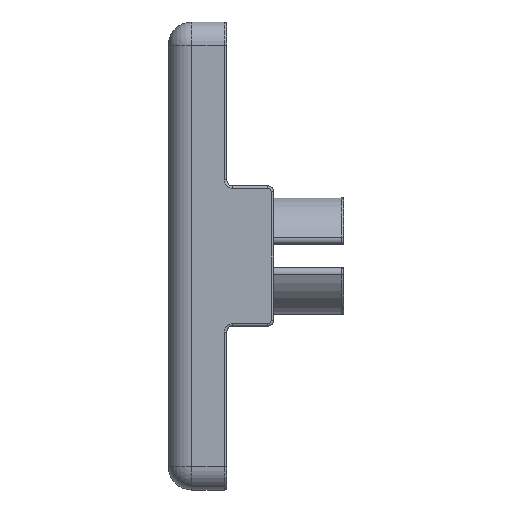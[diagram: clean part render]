
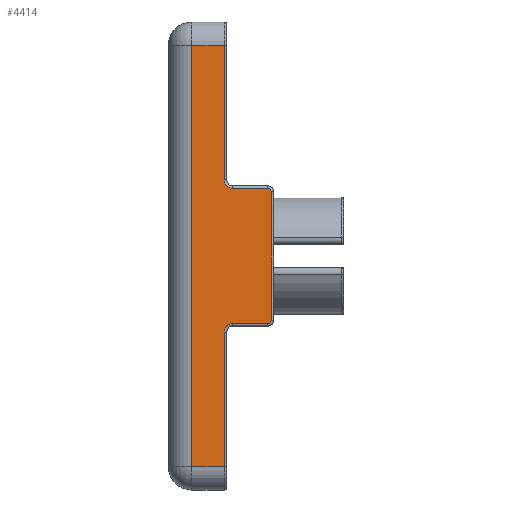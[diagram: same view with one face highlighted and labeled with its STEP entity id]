
A CAD part, left-side view. The second image highlights one B-rep face of the part: STEP entity #4414.
In plain terms, the highlighted planar face has unit normal (-1, 0, 0).
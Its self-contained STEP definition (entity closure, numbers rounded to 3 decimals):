
#19 = CIRCLE ( 'NONE', #3975, 0.35 ) ;
#121 = CARTESIAN_POINT ( 'NONE',  ( -32.618, 0.1, -4.551 ) ) ;
#135 = AXIS2_PLACEMENT_3D ( 'NONE', #2841, #4668, #1117 ) ;
#145 = CARTESIAN_POINT ( 'NONE',  ( -32.618, -1.75, -16.301 ) ) ;
#159 = ORIENTED_EDGE ( 'NONE', *, *, #775, .T. ) ;
#170 = DIRECTION ( 'NONE',  ( -1., 0., 0. ) ) ;
#240 = ORIENTED_EDGE ( 'NONE', *, *, #2016, .T. ) ;
#242 = DIRECTION ( 'NONE',  ( 0., -1., 0. ) ) ;
#271 = CARTESIAN_POINT ( 'NONE',  ( -32.618, -1.9, -22.551 ) ) ;
#361 = CARTESIAN_POINT ( 'NONE',  ( -32.618, 2.5, -4.551 ) ) ;
#373 = ORIENTED_EDGE ( 'NONE', *, *, #3494, .T. ) ;
#411 = AXIS2_PLACEMENT_3D ( 'NONE', #3563, #2861, #634 ) ;
#568 = VECTOR ( 'NONE', #3858, 1000. ) ;
#634 = DIRECTION ( 'NONE',  ( 0., 0., -1. ) ) ;
#667 = DIRECTION ( 'NONE',  ( 0., -1., 0. ) ) ;
#683 = LINE ( 'NONE', #3492, #568 ) ;
#697 = ORIENTED_EDGE ( 'NONE', *, *, #1694, .T. ) ;
#775 = EDGE_CURVE ( 'NONE', #1434, #3956, #3796, .T. ) ;
#928 = VERTEX_POINT ( 'NONE', #1730 ) ;
#965 = ORIENTED_EDGE ( 'NONE', *, *, #1489, .T. ) ;
#1021 = AXIS2_PLACEMENT_3D ( 'NONE', #3240, #1027, #3605 ) ;
#1027 = DIRECTION ( 'NONE',  ( 1., 0., 0. ) ) ;
#1048 = ORIENTED_EDGE ( 'NONE', *, *, #1584, .T. ) ;
#1055 = VERTEX_POINT ( 'NONE', #4652 ) ;
#1067 = DIRECTION ( 'NONE',  ( 1., 0., 0. ) ) ;
#1101 = LINE ( 'NONE', #2175, #4026 ) ;
#1117 = DIRECTION ( 'NONE',  ( 0., 0., -1. ) ) ;
#1133 = CARTESIAN_POINT ( 'NONE',  ( -32.618, -1.75, -16.451 ) ) ;
#1333 = VERTEX_POINT ( 'NONE', #121 ) ;
#1404 = LINE ( 'NONE', #271, #4196 ) ;
#1434 = VERTEX_POINT ( 'NONE', #1133 ) ;
#1471 = CARTESIAN_POINT ( 'NONE',  ( -32.618, -1.9, -10.801 ) ) ;
#1489 = EDGE_CURVE ( 'NONE', #4653, #1506, #4149, .T. ) ;
#1506 = VERTEX_POINT ( 'NONE', #1964 ) ;
#1584 = EDGE_CURVE ( 'NONE', #4540, #2309, #3585, .T. ) ;
#1585 = ORIENTED_EDGE ( 'NONE', *, *, #2046, .T. ) ;
#1616 = EDGE_CURVE ( 'NONE', #1055, #1434, #1638, .T. ) ;
#1638 = LINE ( 'NONE', #3711, #2507 ) ;
#1694 = EDGE_CURVE ( 'NONE', #3956, #4540, #1404, .T. ) ;
#1700 = EDGE_LOOP ( 'NONE', ( #1984, #1585, #240, #3236, #159, #697, #1048, #4721, #373, #3810, #4744, #965 ) ) ;
#1730 = CARTESIAN_POINT ( 'NONE',  ( -32.618, 0.1, -16.801 ) ) ;
#1741 = VECTOR ( 'NONE', #1901, 1000. ) ;
#1901 = DIRECTION ( 'NONE',  ( 0., 1., 0. ) ) ;
#1964 = CARTESIAN_POINT ( 'NONE',  ( -32.618, 1.5, -22.551 ) ) ;
#1977 = VECTOR ( 'NONE', #2947, 1000. ) ;
#1984 = ORIENTED_EDGE ( 'NONE', *, *, #1988, .T. ) ;
#1988 = EDGE_CURVE ( 'NONE', #1506, #3217, #1101, .T. ) ;
#2016 = EDGE_CURVE ( 'NONE', #928, #1055, #19, .T. ) ;
#2046 = EDGE_CURVE ( 'NONE', #3217, #928, #4651, .T. ) ;
#2113 = EDGE_CURVE ( 'NONE', #2309, #2226, #4538, .T. ) ;
#2175 = CARTESIAN_POINT ( 'NONE',  ( -32.618, 2.5, -22.551 ) ) ;
#2226 = VERTEX_POINT ( 'NONE', #2698 ) ;
#2309 = VERTEX_POINT ( 'NONE', #3821 ) ;
#2486 = PLANE ( 'NONE',  #411 ) ;
#2507 = VECTOR ( 'NONE', #242, 1000. ) ;
#2628 = CARTESIAN_POINT ( 'NONE',  ( -32.618, 2.5, -10.651 ) ) ;
#2652 = DIRECTION ( 'NONE',  ( 0., 0., -1. ) ) ;
#2698 = CARTESIAN_POINT ( 'NONE',  ( -32.618, -0.25, -10.651 ) ) ;
#2705 = DIRECTION ( 'NONE',  ( 0., 0., 1. ) ) ;
#2730 = DIRECTION ( 'NONE',  ( 0., 0., -1. ) ) ;
#2841 = CARTESIAN_POINT ( 'NONE',  ( -32.618, -1.75, -10.801 ) ) ;
#2861 = DIRECTION ( 'NONE',  ( 1., 0., 0. ) ) ;
#2930 = CARTESIAN_POINT ( 'NONE',  ( -32.618, 0.1, -16.801 ) ) ;
#2947 = DIRECTION ( 'NONE',  ( 0., -1., 0. ) ) ;
#2953 = LINE ( 'NONE', #361, #1977 ) ;
#2978 = AXIS2_PLACEMENT_3D ( 'NONE', #145, #170, #2730 ) ;
#3019 = CARTESIAN_POINT ( 'NONE',  ( -32.618, 1.5, -4.551 ) ) ;
#3085 = VECTOR ( 'NONE', #2652, 1000. ) ;
#3217 = VERTEX_POINT ( 'NONE', #4115 ) ;
#3236 = ORIENTED_EDGE ( 'NONE', *, *, #1616, .T. ) ;
#3240 = CARTESIAN_POINT ( 'NONE',  ( -32.618, -0.25, -10.301 ) ) ;
#3277 = CARTESIAN_POINT ( 'NONE',  ( -32.618, -0.25, -16.801 ) ) ;
#3349 = VERTEX_POINT ( 'NONE', #3844 ) ;
#3492 = CARTESIAN_POINT ( 'NONE',  ( -32.618, 0.1, -4.551 ) ) ;
#3494 = EDGE_CURVE ( 'NONE', #2226, #3349, #4241, .T. ) ;
#3563 = CARTESIAN_POINT ( 'NONE',  ( -32.618, 2.5, -22.551 ) ) ;
#3585 = CIRCLE ( 'NONE', #135, 0.15 ) ;
#3591 = EDGE_CURVE ( 'NONE', #4653, #1333, #2953, .T. ) ;
#3605 = DIRECTION ( 'NONE',  ( 0., 0., -1. ) ) ;
#3629 = DIRECTION ( 'NONE',  ( 0., 0., 1. ) ) ;
#3654 = DIRECTION ( 'NONE',  ( 0., 0., -1. ) ) ;
#3695 = VECTOR ( 'NONE', #3629, 1000. ) ;
#3711 = CARTESIAN_POINT ( 'NONE',  ( -32.618, 2.5, -16.451 ) ) ;
#3796 = CIRCLE ( 'NONE', #2978, 0.15 ) ;
#3810 = ORIENTED_EDGE ( 'NONE', *, *, #3889, .T. ) ;
#3821 = CARTESIAN_POINT ( 'NONE',  ( -32.618, -1.75, -10.651 ) ) ;
#3844 = CARTESIAN_POINT ( 'NONE',  ( -32.618, 0.1, -10.301 ) ) ;
#3858 = DIRECTION ( 'NONE',  ( 0., 0., 1. ) ) ;
#3873 = CARTESIAN_POINT ( 'NONE',  ( -32.618, -1.9, -16.301 ) ) ;
#3889 = EDGE_CURVE ( 'NONE', #3349, #1333, #683, .T. ) ;
#3956 = VERTEX_POINT ( 'NONE', #3873 ) ;
#3975 = AXIS2_PLACEMENT_3D ( 'NONE', #3277, #1067, #3654 ) ;
#4026 = VECTOR ( 'NONE', #667, 1000. ) ;
#4115 = CARTESIAN_POINT ( 'NONE',  ( -32.618, 0.1, -22.551 ) ) ;
#4149 = LINE ( 'NONE', #4454, #3085 ) ;
#4196 = VECTOR ( 'NONE', #2705, 1000. ) ;
#4241 = CIRCLE ( 'NONE', #1021, 0.35 ) ;
#4392 = FACE_OUTER_BOUND ( 'NONE', #1700, .T. ) ;
#4414 = ADVANCED_FACE ( 'NONE', ( #4392 ), #2486, .F. ) ;
#4454 = CARTESIAN_POINT ( 'NONE',  ( -32.618, 1.5, -22.551 ) ) ;
#4538 = LINE ( 'NONE', #2628, #1741 ) ;
#4540 = VERTEX_POINT ( 'NONE', #1471 ) ;
#4651 = LINE ( 'NONE', #2930, #3695 ) ;
#4652 = CARTESIAN_POINT ( 'NONE',  ( -32.618, -0.25, -16.451 ) ) ;
#4653 = VERTEX_POINT ( 'NONE', #3019 ) ;
#4668 = DIRECTION ( 'NONE',  ( -1., 0., 0. ) ) ;
#4721 = ORIENTED_EDGE ( 'NONE', *, *, #2113, .T. ) ;
#4744 = ORIENTED_EDGE ( 'NONE', *, *, #3591, .F. ) ;
